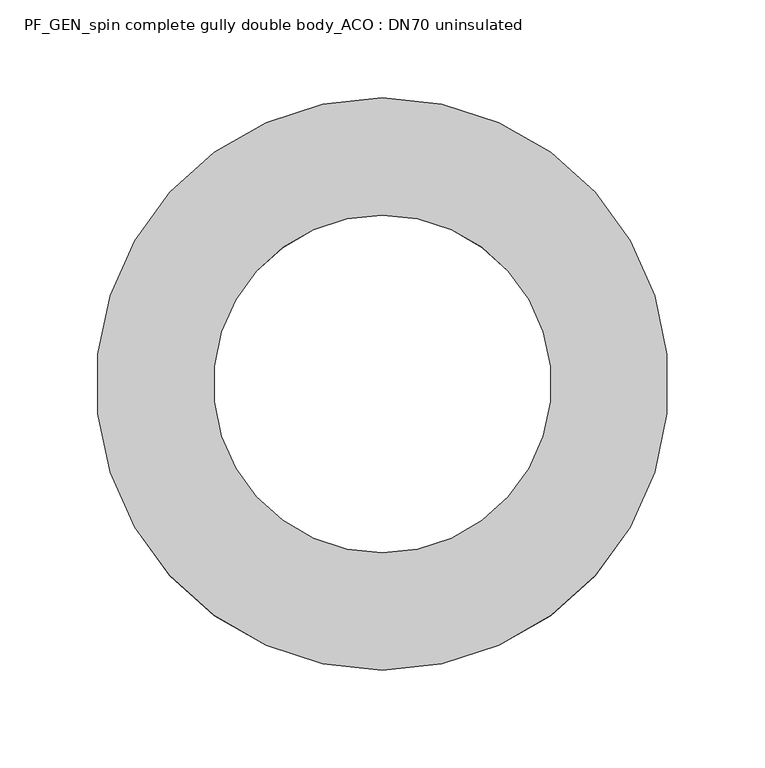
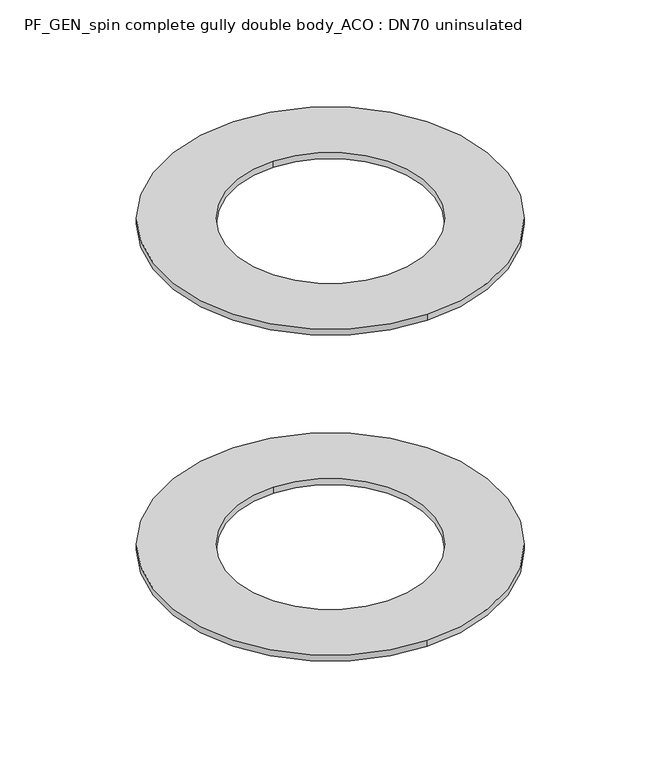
"""IFC4 building model written with IfcOpenShell, lengths in millimetres: sanitary terminal geometry, PF_GEN_spin complete gully double body_ACO : DN70 uninsulated."""

from ifc_helpers import new_model, si_unit, point, frame, origin, origin_2d, place, context, project, spatial, circle_curve, trimmed, segment, composite_curve, outline, extrude, source, transform, mapped, element, save


def pf_gen_spin_complete_gully_double_body_aco_dn70_uninsulated_9e07d89d(model_context):
    return source(origin(), model_context, "Body", "SweptSolid", [
        extrude(outline(composite_curve([segment(trimmed(circle_curve(origin_2d(), 146.25), [point((0.0, 146.25))], [point((0.0, -146.25))], False, "CARTESIAN"), True, "CONTINUOUS"), segment(trimmed(circle_curve(origin_2d(), 146.25), [point((0.0, -146.25))], [point((0.0, 146.25))], False, "CARTESIAN"), True, "CONTINUOUS")], self_intersect=False), holes=[composite_curve([segment(trimmed(circle_curve(origin_2d(), 86.25), [point((0.0, 86.25))], [point((0.0, -86.25))], True, "CARTESIAN"), True, "CONTINUOUS"), segment(trimmed(circle_curve(origin_2d(), 86.25), [point((0.0, -86.25))], [point((0.0, 86.25))], True, "CARTESIAN"), True, "CONTINUOUS")], self_intersect=False)]), frame((0.0, 0.0, 306.0), z_axis=(0.0, 0.0, 1.0), x_axis=(1.0, 0.0, 0.0)), (0.0, 0.0, 1.0), 5.5),
        extrude(outline(composite_curve([segment(trimmed(circle_curve(origin_2d(), 146.25), [point((0.0, -146.25))], [point((0.0, 146.25))], False, "CARTESIAN"), True, "CONTINUOUS"), segment(trimmed(circle_curve(origin_2d(), 146.25), [point((0.0, 146.25))], [point((0.0, -146.25))], False, "CARTESIAN"), True, "CONTINUOUS")], self_intersect=False), holes=[composite_curve([segment(trimmed(circle_curve(origin_2d(), 86.25), [point((0.0, -86.25))], [point((0.0, 86.25))], True, "CARTESIAN"), True, "CONTINUOUS"), segment(trimmed(circle_curve(origin_2d(), 86.25), [point((0.0, 86.25))], [point((0.0, -86.25))], True, "CARTESIAN"), True, "CONTINUOUS")], self_intersect=False)]), frame((0.0, 0.0, 6.0), z_axis=(0.0, 0.0, 1.0), x_axis=(1.0, 0.0, 0.0)), (0.0, 0.0, 1.0), 5.5),
    ])


if __name__ == "__main__":
    model = new_model("IFC4")
    model_context = context("Model", 3, world=origin())
    ifc_project = project(units=[si_unit("LENGTHUNIT", "METRE", prefix="MILLI")], contexts=[model_context])
    site = spatial("IfcSite", under=ifc_project)
    building = spatial("IfcBuilding", under=site)
    placement = place(None, origin())
    pf_gen_spin_complete_gully_double_body_aco_dn70_uninsulated_shape = pf_gen_spin_complete_gully_double_body_aco_dn70_uninsulated_9e07d89d(model_context)
    element("IfcSanitaryTerminal", 1, ObjectType="PF_GEN_spin complete gully double body_ACO : DN70 uninsulated", at=placement, inside=building, context=model_context, shape_type="MappedRepresentation", body=[
        mapped(pf_gen_spin_complete_gully_double_body_aco_dn70_uninsulated_shape, transform((0.0, 0.0, 0.0), x_axis=(1.0, 0.0, 0.0), y_axis=(0.0, 1.0, 0.0), z_axis=(0.0, 0.0, 1.0))),
    ])
    save(model, "model.ifc")
